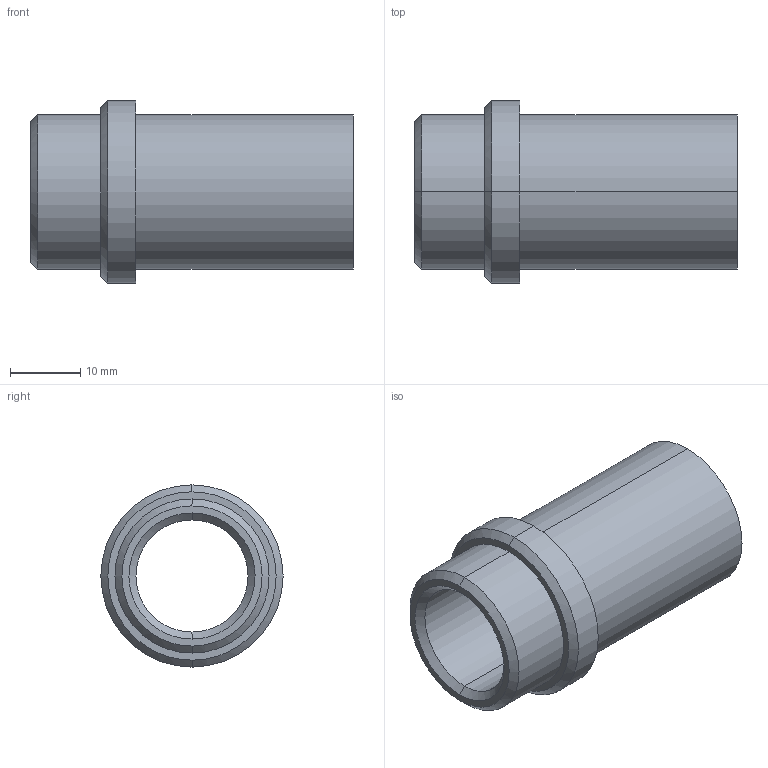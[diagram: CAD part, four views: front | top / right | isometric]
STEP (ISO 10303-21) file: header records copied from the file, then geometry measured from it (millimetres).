
FILE_DESCRIPTION(('CATIA V5 STEP Exchange'),'2;1');
FILE_NAME('C:\Users\Utente\Desktop\IO LAVORO\3D X SITO CF\X SITO\PLASTICA\358\358-16x46.stp','2021-04-08T13:55:29+00:00',('none'),('none'),'CATIA Version 5 Release 20 GA (IN-10)','CATIA V5 STEP AP203','none');
FILE_SCHEMA(('CONFIG_CONTROL_DESIGN'));
Length unit declared in the file: millimetre
Products named in the file (1): 358-16X46
Bounding box: 46 x 26 x 26 mm (x, y, z)
Volume: 8846.2 mm3; surface area: 6053.6 mm2
Topology: 1 solids, 1 shells, 20 faces, 64 edges, 48 vertices
Faces by surface type: cylinder 8, cone 6, plane 4, torus 2
Entity records: 906 total; most frequent: CARTESIAN_POINT 301, ORIENTED_EDGE 128, DIRECTION 92, EDGE_CURVE 64, AXIS2_PLACEMENT_3D 59, VERTEX_POINT 48, CIRCLE 38, EDGE_LOOP 24
